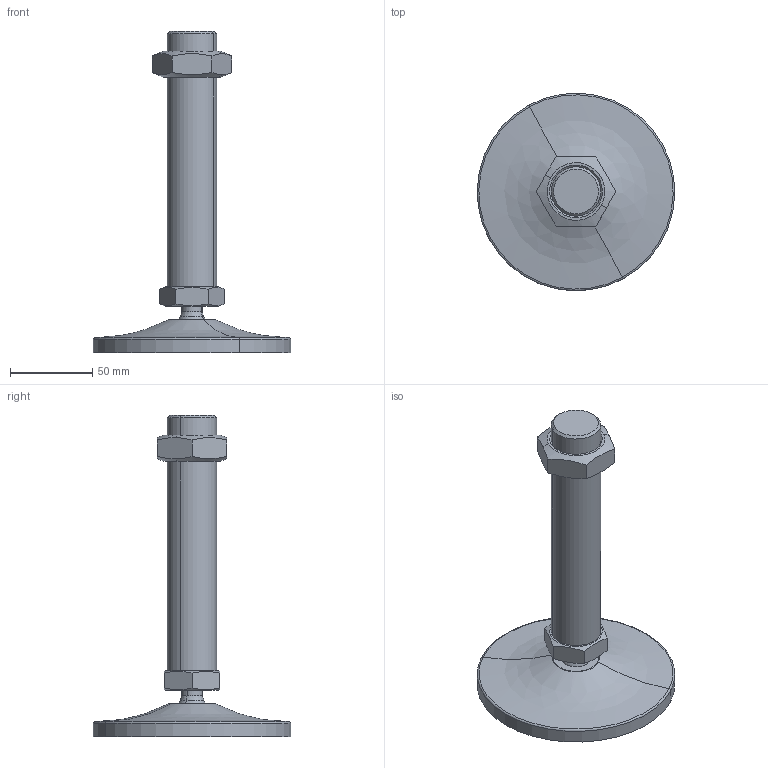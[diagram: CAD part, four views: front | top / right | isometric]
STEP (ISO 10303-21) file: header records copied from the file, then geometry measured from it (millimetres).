
FILE_DESCRIPTION(('CATIA V5 STEP Exchange'),'2;1');
FILE_NAME('C:\Users\ALI OZGUN\Desktop\alhan\saplama2\560123021.stp','2017-09-21T10:36:33+00:00',('none'),('none'),'CATIA Version 5 Release 21 GA (IN-10)','CATIA V5 STEP AP203','none');
FILE_SCHEMA(('CONFIG_CONTROL_DESIGN'));
Length unit declared in the file: millimetre
Products named in the file (1): 560123021
Bounding box: 119.97 x 119.97 x 195 mm (x, y, z)
Volume: 220867.1 mm3; surface area: 51777.3 mm2
Topology: 3 solids, 3 shells, 60 faces, 136 edges, 83 vertices
Faces by surface type: plane 20, cone 16, cylinder 14, torus 4, revolution 4, sphere 2
Entity records: 1887 total; most frequent: CARTESIAN_POINT 645, ORIENTED_EDGE 268, DIRECTION 185, EDGE_CURVE 134, AXIS2_PLACEMENT_3D 99, VERTEX_POINT 83, EDGE_LOOP 67, ADVANCED_FACE 60
